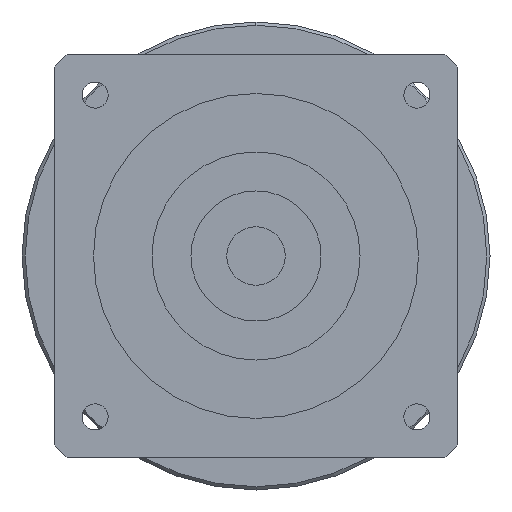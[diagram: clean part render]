
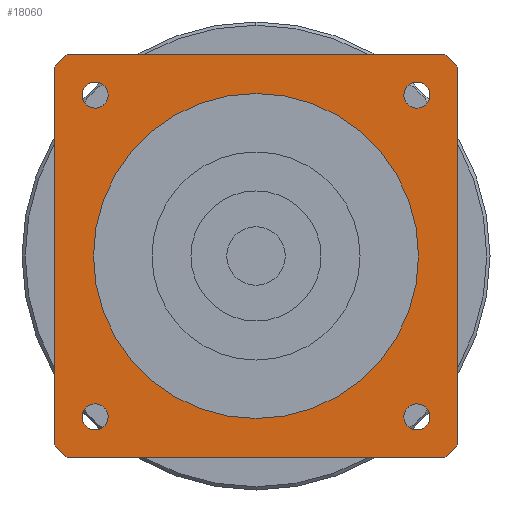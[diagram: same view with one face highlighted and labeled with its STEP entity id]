
A CAD part, left-side view. The second image highlights one B-rep face of the part: STEP entity #18060.
In plain terms, the highlighted planar face has unit normal (-1, 0, 0) as drawn and (0, 0, -1) by its records, which use the part's own axes.
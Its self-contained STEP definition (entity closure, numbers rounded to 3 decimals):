
#12210=CARTESIAN_POINT('',(-31.,29.073,-92.));
#12220=VERTEX_POINT('',#12210);
#12400=CARTESIAN_POINT('',(-31.,-29.073,-92.));
#12410=VERTEX_POINT('',#12400);
#12440=CARTESIAN_POINT('',(-31.,31.,-92.));
#12450=DIRECTION('',(0.,-1.,0.));
#12460=VECTOR('',#12450,1000.);
#12470=LINE('',#12440,#12460);
#12480=EDGE_CURVE('',#12220,#12410,#12470,.T.);
#12640=CARTESIAN_POINT('',(29.073,31.,-92.));
#12650=VERTEX_POINT('',#12640);
#12680=CARTESIAN_POINT('',(0.,0.,
-92.));
#12690=DIRECTION('',(0.,0.,1.));
#12700=DIRECTION('',(0.,-1.,0.));
#12710=AXIS2_PLACEMENT_3D('',#12680,#12690,#12700);
#12720=CIRCLE('',#12710,42.5);
#12730=CARTESIAN_POINT('',(31.,29.073,-92.));
#12740=VERTEX_POINT('',#12730);
#12750=EDGE_CURVE('',#12740,#12650,#12720,.T.);
#15260=CARTESIAN_POINT('',(-29.073,-31.,-92.));
#15270=VERTEX_POINT('',#15260);
#15300=CARTESIAN_POINT('',(0.,0.,
-92.));
#15310=DIRECTION('',(0.,0.,1.));
#15320=DIRECTION('',(0.,-1.,0.));
#15330=AXIS2_PLACEMENT_3D('',#15300,#15310,#15320);
#15340=CIRCLE('',#15330,42.5);
#15350=EDGE_CURVE('',#12410,#15270,#15340,.T.);
#15840=CARTESIAN_POINT('',(29.073,-31.,-92.));
#15850=VERTEX_POINT('',#15840);
#15930=CARTESIAN_POINT('',(31.,-29.073,-92.));
#15940=VERTEX_POINT('',#15930);
#15970=CARTESIAN_POINT('',(0.,0.,
-92.));
#15980=DIRECTION('',(0.,0.,1.));
#15990=DIRECTION('',(0.,-1.,0.));
#16000=AXIS2_PLACEMENT_3D('',#15970,#15980,#15990);
#16010=CIRCLE('',#16000,42.5);
#16020=EDGE_CURVE('',#15850,#15940,#16010,.T.);
#16280=CARTESIAN_POINT('',(-29.073,31.,-92.));
#16290=VERTEX_POINT('',#16280);
#16320=CARTESIAN_POINT('',(31.,31.,-92.));
#16330=DIRECTION('',(-1.,0.,0.));
#16340=VECTOR('',#16330,1000.);
#16350=LINE('',#16320,#16340);
#16360=EDGE_CURVE('',#12650,#16290,#16350,.T.);
#16760=CARTESIAN_POINT('',(0.,0.,
-92.));
#16770=DIRECTION('',(0.,0.,1.));
#16780=DIRECTION('',(0.,-1.,0.));
#16790=AXIS2_PLACEMENT_3D('',#16760,#16770,#16780);
#16800=CIRCLE('',#16790,42.5);
#16810=EDGE_CURVE('',#16290,#12220,#16800,.T.);
#16860=CARTESIAN_POINT('',(-31.,31.,-92.));
#16870=DIRECTION('',(0.,0.,1.));
#16880=DIRECTION('',(-1.,0.,0.));
#16890=AXIS2_PLACEMENT_3D('',#16860,#16870,#16880);
#16900=PLANE('',#16890);
#16910=CARTESIAN_POINT('',(24.749,-24.749,-92.));
#16920=DIRECTION('',(0.,0.,-1.));
#16930=DIRECTION('',(1.,0.,0.));
#16940=AXIS2_PLACEMENT_3D('',#16910,#16920,#16930);
#16950=CIRCLE('',#16940,2.);
#16960=CARTESIAN_POINT('',(26.749,-24.749,-92.));
#16970=VERTEX_POINT('',#16960);
#16980=CARTESIAN_POINT('',(24.749,-26.749,-92.));
#16990=VERTEX_POINT('',#16980);
#17000=EDGE_CURVE('',#16970,#16990,#16950,.T.);
#17010=ORIENTED_EDGE('',*,*,#17000,.F.);
#17020=CARTESIAN_POINT('',(24.749,-22.749,-92.));
#17030=VERTEX_POINT('',#17020);
#17040=EDGE_CURVE('',#16990,#17030,#16950,.T.);
#17050=ORIENTED_EDGE('',*,*,#17040,.F.);
#17060=EDGE_CURVE('',#17030,#16970,#16950,.T.);
#17070=ORIENTED_EDGE('',*,*,#17060,.F.);
#17080=EDGE_LOOP('',(#17070,#17050,#17010));
#17090=FACE_BOUND('',#17080,.T.);
#17100=CARTESIAN_POINT('',(24.749,24.749,-92.));
#17110=DIRECTION('',(0.,0.,-1.));
#17120=DIRECTION('',(0.,1.,0.));
#17130=AXIS2_PLACEMENT_3D('',#17100,#17110,#17120);
#17140=CIRCLE('',#17130,2.);
#17150=CARTESIAN_POINT('',(24.749,26.749,-92.));
#17160=VERTEX_POINT('',#17150);
#17170=CARTESIAN_POINT('',(26.749,24.749,-92.));
#17180=VERTEX_POINT('',#17170);
#17190=EDGE_CURVE('',#17160,#17180,#17140,.T.);
#17200=ORIENTED_EDGE('',*,*,#17190,.F.);
#17210=CARTESIAN_POINT('',(22.749,24.749,-92.));
#17220=VERTEX_POINT('',#17210);
#17230=EDGE_CURVE('',#17180,#17220,#17140,.T.);
#17240=ORIENTED_EDGE('',*,*,#17230,.F.);
#17250=EDGE_CURVE('',#17220,#17160,#17140,.T.);
#17260=ORIENTED_EDGE('',*,*,#17250,.F.);
#17270=EDGE_LOOP('',(#17260,#17240,#17200));
#17280=FACE_BOUND('',#17270,.T.);
#17290=CARTESIAN_POINT('',(-24.749,24.749,-92.));
#17300=DIRECTION('',(0.,0.,-1.));
#17310=DIRECTION('',(-1.,0.,0.));
#17320=AXIS2_PLACEMENT_3D('',#17290,#17300,#17310);
#17330=CIRCLE('',#17320,2.);
#17340=CARTESIAN_POINT('',(-26.749,24.749,-92.));
#17350=VERTEX_POINT('',#17340);
#17360=CARTESIAN_POINT('',(-24.749,26.749,-92.));
#17370=VERTEX_POINT('',#17360);
#17380=EDGE_CURVE('',#17350,#17370,#17330,.T.);
#17390=ORIENTED_EDGE('',*,*,#17380,.F.);
#17400=CARTESIAN_POINT('',(-24.749,22.749,-92.));
#17410=VERTEX_POINT('',#17400);
#17420=EDGE_CURVE('',#17370,#17410,#17330,.T.);
#17430=ORIENTED_EDGE('',*,*,#17420,.F.);
#17440=EDGE_CURVE('',#17410,#17350,#17330,.T.);
#17450=ORIENTED_EDGE('',*,*,#17440,.F.);
#17460=EDGE_LOOP('',(#17450,#17430,#17390));
#17470=FACE_BOUND('',#17460,.T.);
#17480=CARTESIAN_POINT('',(-24.749,-24.749,-92.));
#17490=DIRECTION('',(0.,0.,-1.));
#17500=DIRECTION('',(0.,-1.,0.));
#17510=AXIS2_PLACEMENT_3D('',#17480,#17490,#17500);
#17520=CIRCLE('',#17510,2.);
#17530=CARTESIAN_POINT('',(-24.749,-26.749,-92.));
#17540=VERTEX_POINT('',#17530);
#17550=CARTESIAN_POINT('',(-26.749,-24.749,-92.));
#17560=VERTEX_POINT('',#17550);
#17570=EDGE_CURVE('',#17540,#17560,#17520,.T.);
#17580=ORIENTED_EDGE('',*,*,#17570,.F.);
#17590=CARTESIAN_POINT('',(-22.749,-24.749,-92.));
#17600=VERTEX_POINT('',#17590);
#17610=EDGE_CURVE('',#17560,#17600,#17520,.T.);
#17620=ORIENTED_EDGE('',*,*,#17610,.F.);
#17630=EDGE_CURVE('',#17600,#17540,#17520,.T.);
#17640=ORIENTED_EDGE('',*,*,#17630,.F.);
#17650=EDGE_LOOP('',(#17640,#17620,#17580));
#17660=FACE_BOUND('',#17650,.T.);
#17670=ORIENTED_EDGE('',*,*,#15350,.F.);
#17680=CARTESIAN_POINT('',(-31.,-31.,-92.));
#17690=DIRECTION('',(1.,0.,0.));
#17700=VECTOR('',#17690,1000.);
#17710=LINE('',#17680,#17700);
#17720=EDGE_CURVE('',#15270,#15850,#17710,.T.);
#17730=ORIENTED_EDGE('',*,*,#17720,.F.);
#17740=ORIENTED_EDGE('',*,*,#16020,.F.);
#17750=CARTESIAN_POINT('',(31.,-31.,-92.));
#17760=DIRECTION('',(0.,1.,0.));
#17770=VECTOR('',#17760,1000.);
#17780=LINE('',#17750,#17770);
#17790=EDGE_CURVE('',#15940,#12740,#17780,.T.);
#17800=ORIENTED_EDGE('',*,*,#17790,.F.);
#17810=ORIENTED_EDGE('',*,*,#12750,.F.);
#17820=ORIENTED_EDGE('',*,*,#16360,.F.);
#17830=ORIENTED_EDGE('',*,*,#16810,.F.);
#17840=ORIENTED_EDGE('',*,*,#12480,.F.);
#17850=EDGE_LOOP('',(#17840,#17830,#17820,#17810,#17800,#17740,#17730,
#17670));
#17860=FACE_OUTER_BOUND('',#17850,.T.);
#17870=CARTESIAN_POINT('',(0.,0.,
-92.));
#17880=DIRECTION('',(0.,0.,1.));
#17890=DIRECTION('',(0.,-1.,0.));
#17900=AXIS2_PLACEMENT_3D('',#17870,#17880,#17890);
#17910=CIRCLE('',#17900,25.);
#17920=CARTESIAN_POINT('',(25.,0.,-92.));
#17930=VERTEX_POINT('',#17920);
#17940=CARTESIAN_POINT('',(-25.,0.,-92.));
#17950=VERTEX_POINT('',#17940);
#17960=EDGE_CURVE('',#17930,#17950,#17910,.T.);
#17970=ORIENTED_EDGE('',*,*,#17960,.T.);
#17980=CARTESIAN_POINT('',(0.,-25.,-92.));
#17990=VERTEX_POINT('',#17980);
#18000=EDGE_CURVE('',#17990,#17930,#17910,.T.);
#18010=ORIENTED_EDGE('',*,*,#18000,.T.);
#18020=EDGE_CURVE('',#17950,#17990,#17910,.T.);
#18030=ORIENTED_EDGE('',*,*,#18020,.T.);
#18040=EDGE_LOOP('',(#18030,#18010,#17970));
#18050=FACE_BOUND('',#18040,.T.);
#18060=ADVANCED_FACE('',(#17090,#17280,#17470,#17660,#17860,#18050),
#16900,.F.);
